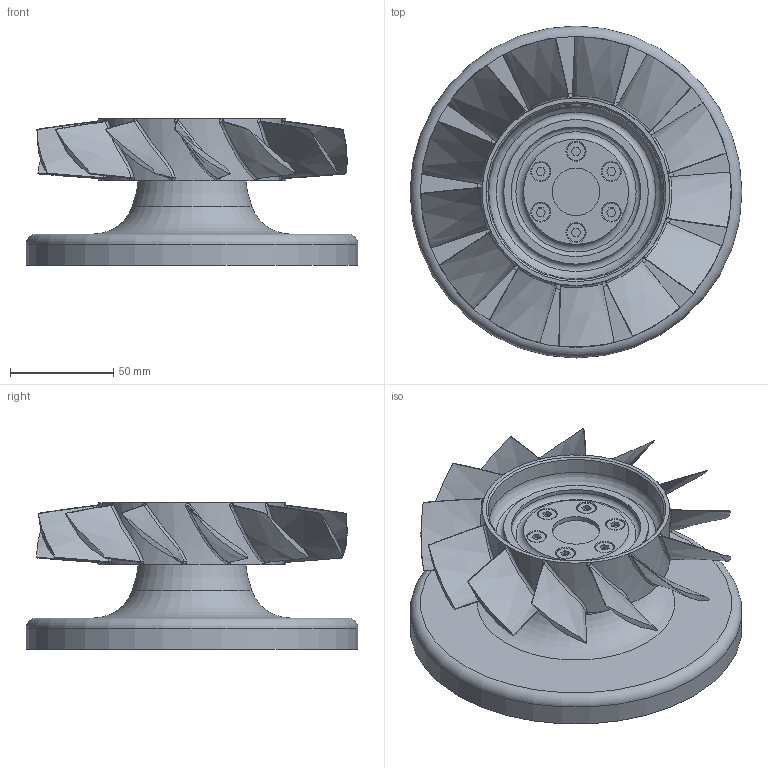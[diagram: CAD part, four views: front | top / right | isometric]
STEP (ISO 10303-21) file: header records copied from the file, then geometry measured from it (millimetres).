
FILE_DESCRIPTION((''),'2;1');
FILE_NAME('Q:\Vance\5th axis\Day 8\Turbine.stp','2022-05-26T12:18:00',(''),(''),'STEP Write','Mastercam 2022 ... CNC Software, Inc.','');
FILE_SCHEMA(('AUTOMOTIVE_DESIGN'));
Length unit declared in the file: inch
Products named in the file (1): None
Bounding box: 160.54 x 160.54 x 70.7 mm (x, y, z)
Volume: 401827.3 mm3; surface area: 106929 mm2
Topology: 7 solids, 8 shells, 258 faces, 751 edges, 500 vertices
Faces by surface type: bspline 104, plane 64, cylinder 57, cone 18, torus 15
Full cylindrical faces by diameter (mm): 5.081 x12, 22.984 x2, 50.806 x1, 62.664 x1, 69.922 x1, 160.541 x1
Entity records: 30951 total; most frequent: CARTESIAN_POINT 25172, ORIENTED_EDGE 1298, DIRECTION 762, EDGE_CURVE 658, VERTEX_POINT 470, B_SPLINE_CURVE_WITH_KNOTS 372, EDGE_LOOP 347, AXIS2_PLACEMENT_3D 327
